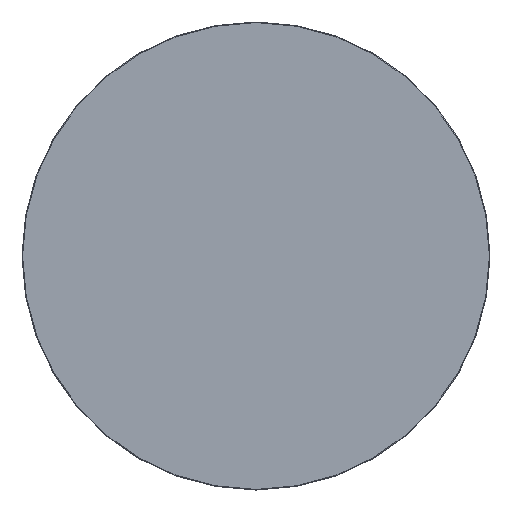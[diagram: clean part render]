
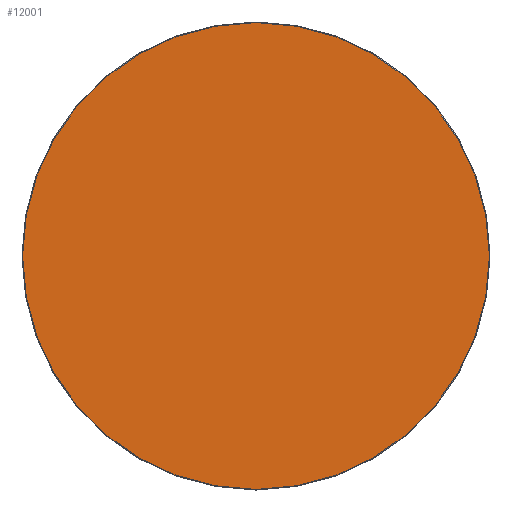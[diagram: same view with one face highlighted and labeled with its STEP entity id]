
A CAD part, top view. The second image highlights one B-rep face of the part: STEP entity #12001.
In plain terms, the highlighted planar face has unit normal (0, 0, 1).
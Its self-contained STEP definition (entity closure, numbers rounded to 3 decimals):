
#11926=CARTESIAN_POINT('',(0.,0.,20.));
#11927=DIRECTION('',(1.,0.,0.));
#11928=DIRECTION('',(0.,0.,1.));
#11929=AXIS2_PLACEMENT_3D('',#11926,#11928,#11927);
#11930=PLANE('',#11929);
#11931=CARTESIAN_POINT('',(-0.5,-548.5,20.));
#11932=VERTEX_POINT('',#11931);
#11933=CARTESIAN_POINT('',(0.5,-548.5,20.));
#11934=VERTEX_POINT('',#11933);
#11935=CARTESIAN_POINT('',(-0.5,-548.5,20.));
#11936=DIRECTION('',(1.,0.,0.));
#11937=VECTOR('',#11936,1.);
#11938=LINE('',#11935,#11937);
#11939=EDGE_CURVE('',#11932,#11934,#11938,.T.);
#11940=ORIENTED_EDGE('E105',*,*,#11939,.T.);
#11941=CARTESIAN_POINT('',(548.5,-0.5,20.));
#11942=VERTEX_POINT('',#11941);
#11943=CARTESIAN_POINT('',(0.5,-0.5,20.));
#11944=DIRECTION('',(0.,-1.,0.));
#11945=DIRECTION('',(0.,-0.,1.));
#11946=AXIS2_PLACEMENT_3D('',#11943,#11945,#11944);
#11947=CIRCLE('',#11946,548.);
#11948=EDGE_CURVE('',#11934,#11942,#11947,.T.);
#11949=ORIENTED_EDGE('E107',*,*,#11948,.T.);
#11950=CARTESIAN_POINT('',(548.5,0.5,20.));
#11951=VERTEX_POINT('',#11950);
#11952=CARTESIAN_POINT('',(548.5,-0.5,20.));
#11953=DIRECTION('',(0.,1.,0.));
#11954=VECTOR('',#11953,1.);
#11955=LINE('',#11952,#11954);
#11956=EDGE_CURVE('',#11942,#11951,#11955,.T.);
#11957=ORIENTED_EDGE('E109',*,*,#11956,.T.);
#11958=CARTESIAN_POINT('',(0.5,548.5,20.));
#11959=VERTEX_POINT('',#11958);
#11960=CARTESIAN_POINT('',(0.5,0.5,20.));
#11961=DIRECTION('',(1.,0.,0.));
#11962=DIRECTION('',(0.,0.,1.));
#11963=AXIS2_PLACEMENT_3D('',#11960,#11962,#11961);
#11964=CIRCLE('',#11963,548.);
#11965=EDGE_CURVE('',#11951,#11959,#11964,.T.);
#11966=ORIENTED_EDGE('E111',*,*,#11965,.T.);
#11967=CARTESIAN_POINT('',(-0.5,548.5,20.));
#11968=VERTEX_POINT('',#11967);
#11969=CARTESIAN_POINT('',(0.5,548.5,20.));
#11970=DIRECTION('',(-1.,0.,0.));
#11971=VECTOR('',#11970,1.);
#11972=LINE('',#11969,#11971);
#11973=EDGE_CURVE('',#11959,#11968,#11972,.T.);
#11974=ORIENTED_EDGE('E113',*,*,#11973,.T.);
#11975=CARTESIAN_POINT('',(-548.5,0.5,20.));
#11976=VERTEX_POINT('',#11975);
#11977=CARTESIAN_POINT('',(-0.5,0.5,20.));
#11978=DIRECTION('',(0.,1.,0.));
#11979=DIRECTION('',(0.,0.,1.));
#11980=AXIS2_PLACEMENT_3D('',#11977,#11979,#11978);
#11981=CIRCLE('',#11980,548.);
#11982=EDGE_CURVE('',#11968,#11976,#11981,.T.);
#11983=ORIENTED_EDGE('E115',*,*,#11982,.T.);
#11984=CARTESIAN_POINT('',(-548.5,-0.5,20.));
#11985=VERTEX_POINT('',#11984);
#11986=CARTESIAN_POINT('',(-548.5,0.5,20.));
#11987=DIRECTION('',(0.,-1.,0.));
#11988=VECTOR('',#11987,1.);
#11989=LINE('',#11986,#11988);
#11990=EDGE_CURVE('',#11976,#11985,#11989,.T.);
#11991=ORIENTED_EDGE('E117',*,*,#11990,.T.);
#11992=CARTESIAN_POINT('',(-0.5,-0.5,20.));
#11993=DIRECTION('',(-1.,0.,0.));
#11994=DIRECTION('',(-0.,0.,1.));
#11995=AXIS2_PLACEMENT_3D('',#11992,#11994,#11993);
#11996=CIRCLE('',#11995,548.);
#11997=EDGE_CURVE('',#11985,#11932,#11996,.T.);
#11998=ORIENTED_EDGE('E119',*,*,#11997,.T.);
#11999=EDGE_LOOP('',(#11940,#11949,#11957,#11966,#11974,#11983,#11991,#11998));
#12000=FACE_OUTER_BOUND('',#11999,.T.);
#12001=ADVANCED_FACE('F2',(#12000),#11930,.T.);
